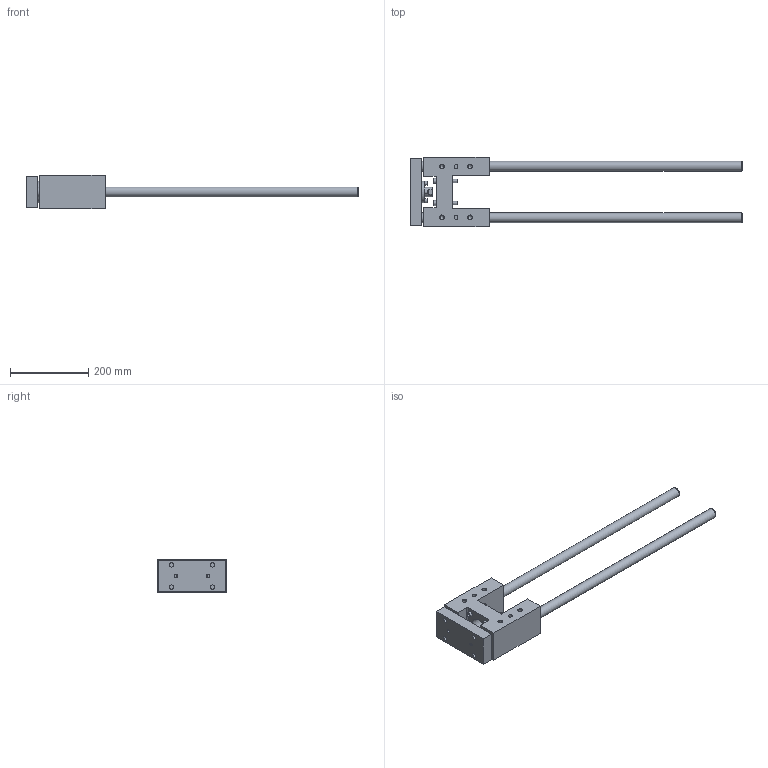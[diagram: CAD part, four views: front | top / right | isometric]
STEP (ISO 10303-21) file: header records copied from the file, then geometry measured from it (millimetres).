
FILE_DESCRIPTION( ( 'STEP AP214' ), '1' );
FILE_NAME( 'U:/Etudes/Top Solid/BIBLIO 3D AVM/TOP/PNEUMATIQUE/GUIDAGES/Type 32 (en H)/R_Renforcée/327R9_30.step', '2005-05-27T09:07:42', ( ' ' ), ( ' ' ), 'XStep 1.0', ' ', ' ' );
FILE_SCHEMA( ( 'automotive_design' ) );
Length unit declared in the file: metre
Products named in the file (2): 1; 2
Bounding box: 851 x 178 x 85 mm (x, y, z)
Volume: 2603649.3 mm3; surface area: 349013.5 mm2
Topology: 2 solids, 7 shells, 209 faces, 484 edges, 321 vertices
Faces by surface type: plane 118, cylinder 70, cone 21
Full cylindrical faces by diameter (mm): 6 x8, 6.5 x4, 8 x10, 8.376 x4, 9 x4, 10 x6, 10.106 x8, 11 x4, 13 x4, 14.376 x2, 18 x4, 24 x1, 25 x4, 26 x1, 34 x1, 37 x1, 45 x1, 55 x1
Entity records: 7089 total; most frequent: CARTESIAN_POINT 1103, DIRECTION 900, ORIENTED_EDGE 696, EDGE_LOOP 358, AXIS2_PLACEMENT_3D 349, EDGE_CURVE 348, VERTEX_POINT 280, FACE_OUTER_BOUND 277
